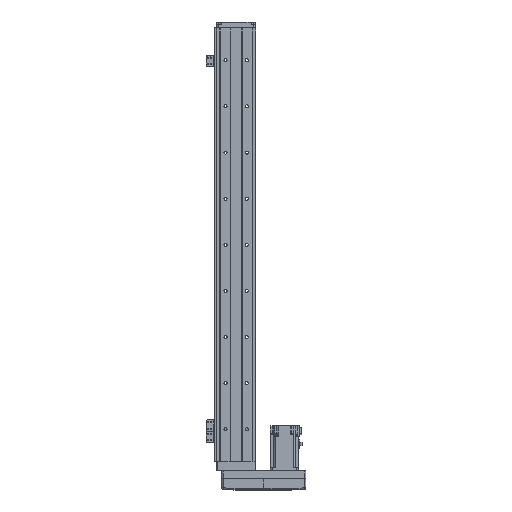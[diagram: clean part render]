
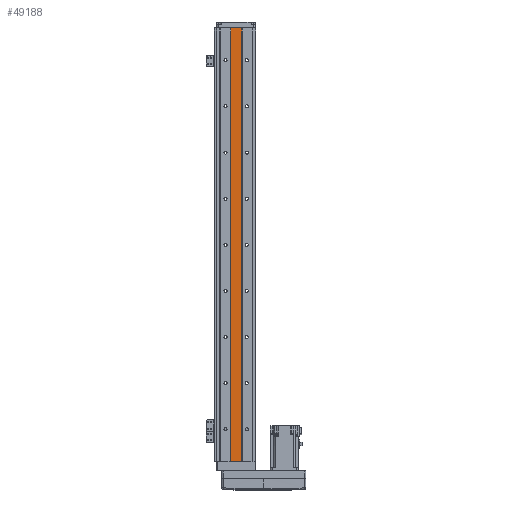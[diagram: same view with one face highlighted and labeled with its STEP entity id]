
A CAD part, front view. The second image highlights one B-rep face of the part: STEP entity #49188.
In plain terms, the highlighted planar face has unit normal (0, -1, 0).
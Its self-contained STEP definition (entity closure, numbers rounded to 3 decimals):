
#1948 = CARTESIAN_POINT ( 'NONE',  ( -12.269, -13.462, 0. ) ) ;
#1982 = CARTESIAN_POINT ( 'NONE',  ( -12.269, -13.462, 940. ) ) ;
#3528 = CARTESIAN_POINT ( 'NONE',  ( -12.269, -13.462, 940. ) ) ;
#3896 = DIRECTION ( 'NONE',  ( 1., 0., 0. ) ) ;
#5348 = VECTOR ( 'NONE', #3896, 1000. ) ;
#6678 = VERTEX_POINT ( 'NONE', #9304 ) ;
#9304 = CARTESIAN_POINT ( 'NONE',  ( -12.269, -13.462, 940. ) ) ;
#9418 = LINE ( 'NONE', #3528, #5348 ) ;
#11791 = DIRECTION ( 'NONE',  ( 0., 0., -1. ) ) ;
#11833 = EDGE_CURVE ( 'NONE', #6678, #37715, #43390, .T. ) ;
#12809 = ORIENTED_EDGE ( 'NONE', *, *, #23738, .F. ) ;
#16772 = ORIENTED_EDGE ( 'NONE', *, *, #11833, .T. ) ;
#19869 = DIRECTION ( 'NONE',  ( 0., 0., 1. ) ) ;
#21883 = VERTEX_POINT ( 'NONE', #27847 ) ;
#22241 = ORIENTED_EDGE ( 'NONE', *, *, #29507, .F. ) ;
#23738 = EDGE_CURVE ( 'NONE', #41279, #21883, #51323, .T. ) ;
#27030 = DIRECTION ( 'NONE',  ( 1., 0., 0. ) ) ;
#27266 = PLANE ( 'NONE',  #41594 ) ;
#27455 = DIRECTION ( 'NONE',  ( 0., 1., 0. ) ) ;
#27847 = CARTESIAN_POINT ( 'NONE',  ( 11.731, -13.462, 0. ) ) ;
#27934 = EDGE_LOOP ( 'NONE', ( #47693, #12809, #22241, #16772 ) ) ;
#29507 = EDGE_CURVE ( 'NONE', #6678, #41279, #9418, .T. ) ;
#29919 = LINE ( 'NONE', #35324, #33159 ) ;
#31077 = FACE_OUTER_BOUND ( 'NONE', #27934, .T. ) ;
#33159 = VECTOR ( 'NONE', #27030, 1000. ) ;
#35324 = CARTESIAN_POINT ( 'NONE',  ( -12.269, -13.462, 0. ) ) ;
#36860 = CARTESIAN_POINT ( 'NONE',  ( 11.731, -13.462, 940. ) ) ;
#37715 = VERTEX_POINT ( 'NONE', #1948 ) ;
#40721 = CARTESIAN_POINT ( 'NONE',  ( 11.731, -13.462, 940. ) ) ;
#41279 = VERTEX_POINT ( 'NONE', #40721 ) ;
#41594 = AXIS2_PLACEMENT_3D ( 'NONE', #1982, #27455, #19869 ) ;
#42769 = VECTOR ( 'NONE', #11791, 1000. ) ;
#43390 = LINE ( 'NONE', #47882, #46009 ) ;
#46009 = VECTOR ( 'NONE', #47705, 1000. ) ;
#46549 = EDGE_CURVE ( 'NONE', #37715, #21883, #29919, .T. ) ;
#47693 = ORIENTED_EDGE ( 'NONE', *, *, #46549, .T. ) ;
#47705 = DIRECTION ( 'NONE',  ( 0., 0., -1. ) ) ;
#47882 = CARTESIAN_POINT ( 'NONE',  ( -12.269, -13.462, 940. ) ) ;
#49188 = ADVANCED_FACE ( 'NONE', ( #31077 ), #27266, .F. ) ;
#51323 = LINE ( 'NONE', #36860, #42769 ) ;
